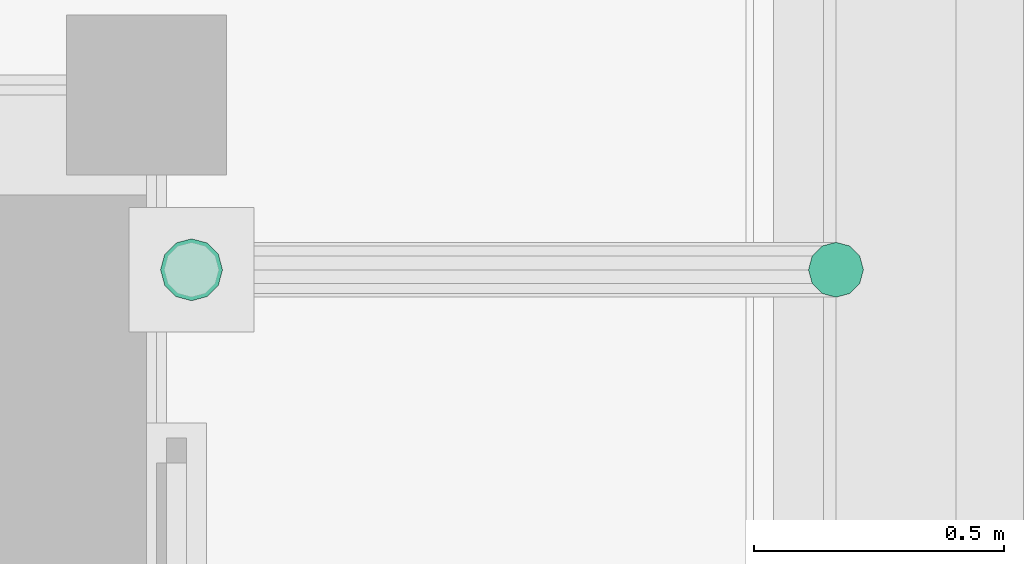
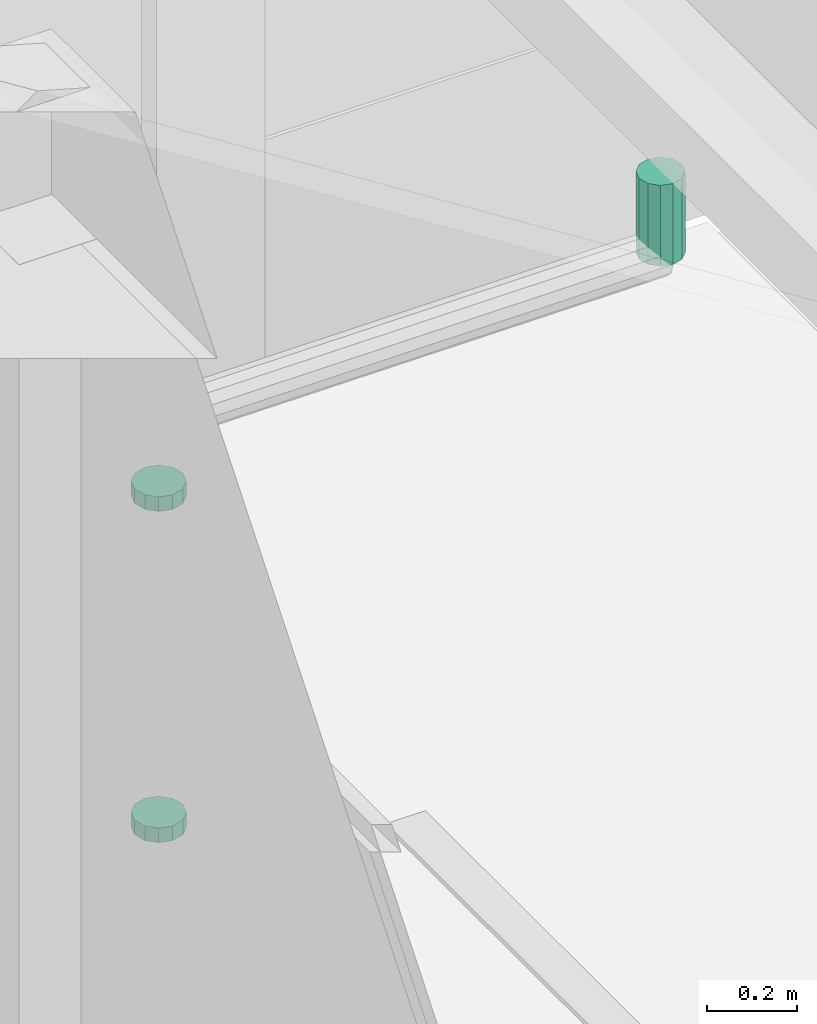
# One storey, part 130 of 177: 3 pipe segments.
"""IFC4 building model written with IfcOpenShell, lengths in metres."""

from ifc_helpers import new_model, si_unit, origin, origin_with_axes, place, context, subcontext, project, spatial, triangles, element, save


model = new_model("IFC4")

# Units and contexts
model_context = context("Model", 3, precision=1e-05, world=origin_with_axes())
body_context = subcontext(model_context, "Body", "Model", "MODEL_VIEW")
ifc_project = project(units=[si_unit("LENGTHUNIT", "METRE"), si_unit("AREAUNIT", "SQUARE_METRE"), si_unit("VOLUMEUNIT", "CUBIC_METRE"), si_unit("PLANEANGLEUNIT", "RADIAN")], contexts=[model_context])

# Site, building, storey
site_placement = place(None, origin_with_axes())
site = spatial("IfcSite", under=ifc_project, at=site_placement, Name="Predio Los Mangos - Morales, San Martín", CompositionType="ELEMENT")
building_placement = place(site_placement, origin())
building = spatial("IfcBuilding", under=site, at=building_placement, Name="Hogar de Refugio Temporal", CompositionType="ELEMENT")
storey_placement = place(building_placement, origin())
storey = spatial("IfcBuildingStorey", under=building, at=storey_placement, Name="NIVEL 1 (NPT +0.00)", CompositionType="ELEMENT", Elevation=0.0)

# Pipe segments
pipe_segment_1_placement = place(storey_placement, origin())
element("IfcPipeSegment", 1, at=pipe_segment_1_placement, inside=storey, Name="montante_boquilla", ObjectType="Montante PVC 4\"", PredefinedType="RIGIDSEGMENT", context=body_context, shape_type="Tessellation", body=[
    triangles([(67.88, 127.505, 3.13), (67.88, 127.505, 2.91), (67.8525, 127.4976, 3.13), (67.8525, 127.4976, 2.91), (67.8324, 127.4775, 3.13), (67.8324, 127.4775, 2.91), (67.825, 127.45, 3.13), (67.825, 127.45, 2.91), (67.8324, 127.4225, 3.13), (67.8324, 127.4225, 2.91), (67.8525, 127.4024, 3.13), (67.8525, 127.4024, 2.91), (67.88, 127.395, 3.13), (67.88, 127.395, 2.91), (67.9075, 127.4024, 3.13), (67.9075, 127.4024, 2.91), (67.9276, 127.4225, 3.13), (67.9276, 127.4225, 2.91), (67.935, 127.45, 3.13), (67.935, 127.45, 2.91), (67.9276, 127.4775, 3.13), (67.9276, 127.4775, 2.91), (67.9075, 127.4976, 3.13), (67.9075, 127.4976, 2.91)], [[1, 2, 4], [1, 4, 3], [3, 4, 6], [3, 6, 5], [5, 6, 8], [5, 8, 7], [7, 8, 10], [7, 10, 9], [9, 10, 12], [9, 12, 11], [11, 12, 14], [11, 14, 13], [13, 14, 16], [13, 16, 15], [15, 16, 18], [15, 18, 17], [17, 18, 20], [17, 20, 19], [19, 20, 22], [19, 22, 21], [6, 4, 2], [2, 24, 22], [22, 20, 18], [18, 16, 14], [14, 12, 10], [10, 8, 6], [6, 2, 22], [22, 18, 14], [14, 10, 6], [22, 14, 6], [21, 22, 24], [21, 24, 23], [23, 24, 2], [23, 2, 1], [23, 1, 3], [3, 5, 7], [7, 9, 11], [11, 13, 15], [15, 17, 19], [19, 21, 23], [23, 3, 7], [7, 11, 15], [15, 19, 23], [7, 15, 23]]),
])
pipe_segment_2_placement = place(storey_placement, origin())
element("IfcPipeSegment", 2, at=pipe_segment_2_placement, inside=storey, Name="montante_abrazadera", ObjectType="Montante PVC 4\"", PredefinedType="RIGIDSEGMENT", context=body_context, shape_type="Tessellation", body=[
    triangles([(66.59, 127.388, 1.8), (66.59, 127.388, 1.84), (66.559, 127.3963, 1.8), (66.559, 127.3963, 1.84), (66.5363, 127.419, 1.8), (66.5363, 127.419, 1.84), (66.528, 127.45, 1.8), (66.528, 127.45, 1.84), (66.5363, 127.481, 1.8), (66.5363, 127.481, 1.84), (66.559, 127.5037, 1.8), (66.559, 127.5037, 1.84), (66.59, 127.512, 1.8), (66.59, 127.512, 1.84), (66.621, 127.5037, 1.8), (66.621, 127.5037, 1.84), (66.6437, 127.481, 1.8), (66.6437, 127.481, 1.84), (66.652, 127.45, 1.8), (66.652, 127.45, 1.84), (66.6437, 127.419, 1.8), (66.6437, 127.419, 1.84), (66.621, 127.3963, 1.8), (66.621, 127.3963, 1.84)], [[1, 2, 4], [1, 4, 3], [3, 4, 6], [3, 6, 5], [5, 6, 8], [5, 8, 7], [7, 8, 10], [7, 10, 9], [9, 10, 12], [9, 12, 11], [11, 12, 14], [11, 14, 13], [13, 14, 16], [13, 16, 15], [15, 16, 18], [15, 18, 17], [17, 18, 20], [17, 20, 19], [19, 20, 22], [19, 22, 21], [6, 4, 2], [2, 24, 22], [22, 20, 18], [18, 16, 14], [14, 12, 10], [10, 8, 6], [6, 2, 22], [22, 18, 14], [14, 10, 6], [22, 14, 6], [21, 22, 24], [21, 24, 23], [23, 24, 2], [23, 2, 1], [23, 1, 3], [3, 5, 7], [7, 9, 11], [11, 13, 15], [15, 17, 19], [19, 21, 23], [23, 3, 7], [7, 11, 15], [15, 19, 23], [7, 15, 23]]),
])
pipe_segment_3_placement = place(storey_placement, origin())
element("IfcPipeSegment", 3, at=pipe_segment_3_placement, inside=storey, Name="montante_abrazadera", ObjectType="Montante PVC 4\"", PredefinedType="RIGIDSEGMENT", context=body_context, shape_type="Tessellation", body=[
    triangles([(66.59, 127.388, 2.7), (66.59, 127.388, 2.74), (66.559, 127.3963, 2.7), (66.559, 127.3963, 2.74), (66.5363, 127.419, 2.7), (66.5363, 127.419, 2.74), (66.528, 127.45, 2.7), (66.528, 127.45, 2.74), (66.5363, 127.481, 2.7), (66.5363, 127.481, 2.74), (66.559, 127.5037, 2.7), (66.559, 127.5037, 2.74), (66.59, 127.512, 2.7), (66.59, 127.512, 2.74), (66.621, 127.5037, 2.7), (66.621, 127.5037, 2.74), (66.6437, 127.481, 2.7), (66.6437, 127.481, 2.74), (66.652, 127.45, 2.7), (66.652, 127.45, 2.74), (66.6437, 127.419, 2.7), (66.6437, 127.419, 2.74), (66.621, 127.3963, 2.7), (66.621, 127.3963, 2.74)], [[1, 2, 4], [1, 4, 3], [3, 4, 6], [3, 6, 5], [5, 6, 8], [5, 8, 7], [7, 8, 10], [7, 10, 9], [9, 10, 12], [9, 12, 11], [11, 12, 14], [11, 14, 13], [13, 14, 16], [13, 16, 15], [15, 16, 18], [15, 18, 17], [17, 18, 20], [17, 20, 19], [19, 20, 22], [19, 22, 21], [6, 4, 2], [2, 24, 22], [22, 20, 18], [18, 16, 14], [14, 12, 10], [10, 8, 6], [6, 2, 22], [22, 18, 14], [14, 10, 6], [22, 14, 6], [21, 22, 24], [21, 24, 23], [23, 24, 2], [23, 2, 1], [23, 1, 3], [3, 5, 7], [7, 9, 11], [11, 13, 15], [15, 17, 19], [19, 21, 23], [23, 3, 7], [7, 11, 15], [15, 19, 23], [7, 15, 23]]),
])

save(model, "model.ifc")
